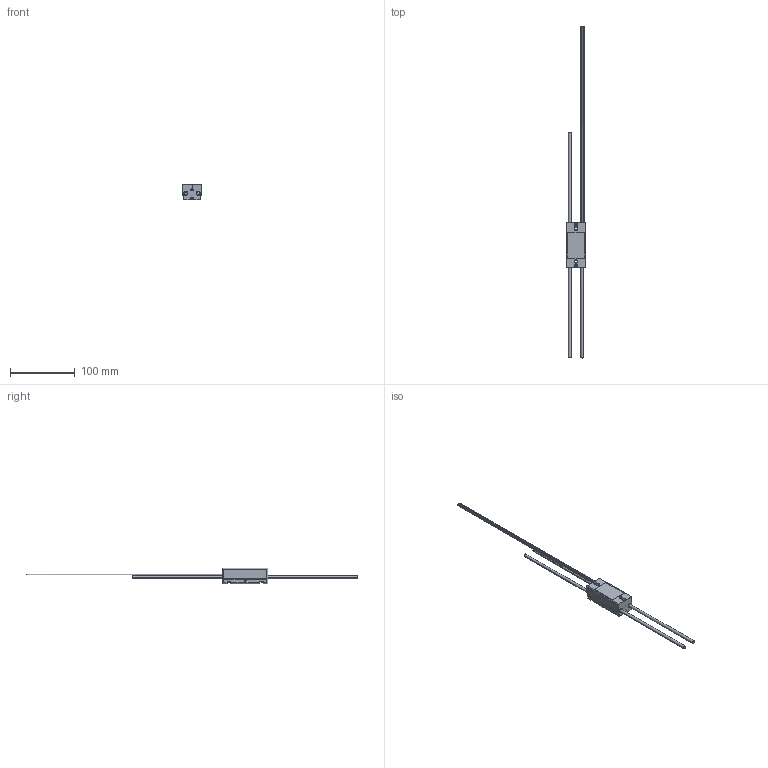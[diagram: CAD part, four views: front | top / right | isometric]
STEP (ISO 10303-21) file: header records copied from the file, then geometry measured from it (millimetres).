
FILE_DESCRIPTION (( 'STEP AP214' ), '1' );
FILE_NAME ('217-8080-STEP-20140814.STEP', '2014-08-14T16:30:27', ( 'IFMI-VEX04' ), ( '' ), 'SwSTEP 2.0', 'SolidWorks 2014', '' );
FILE_SCHEMA (( 'AUTOMOTIVE_DESIGN' ));
Length unit declared in the file: millimetre
Products named in the file (1): 217-8080-STEP-20140814
Bounding box: 30.11 x 514.63 x 24.38 mm (x, y, z)
Volume: 55977.1 mm3; surface area: 25398.6 mm2
Topology: 1 solids, 1 shells, 1554 faces, 3741 edges, 2091 vertices
Faces by surface type: cylinder 592, plane 409, bspline 293, sphere 175, torus 44, cone 41
Entity records: 64397 total; most frequent: CARTESIAN_POINT 14967, ORIENTED_EDGE 7210, DIRECTION 6375, EDGE_CURVE 3605, AXIS2_PLACEMENT_3D 2345, VERTEX_POINT 2091, LINE 1685, VECTOR 1685
